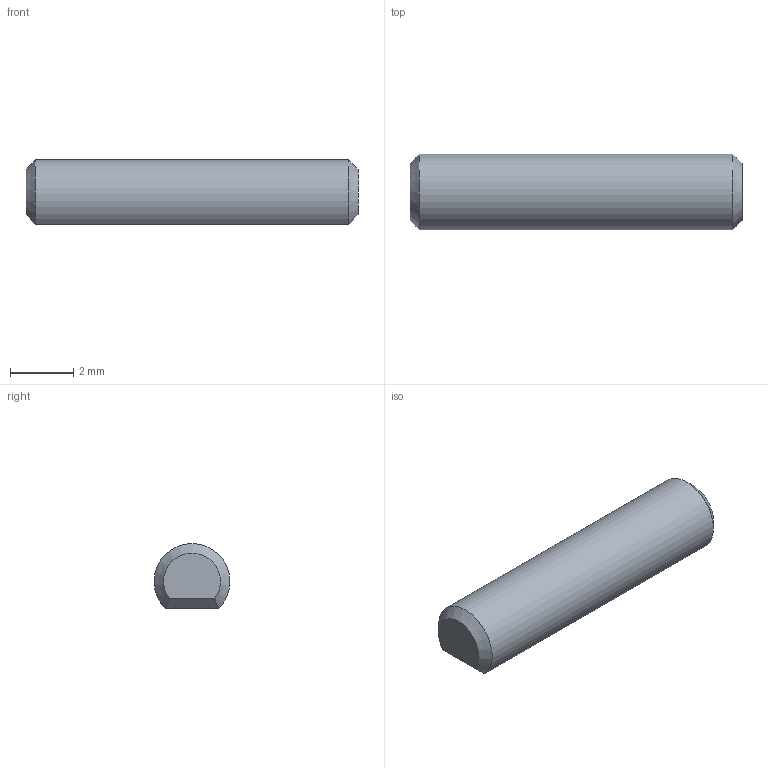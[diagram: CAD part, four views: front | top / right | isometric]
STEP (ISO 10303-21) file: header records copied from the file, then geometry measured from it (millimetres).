
FILE_DESCRIPTION(/* description */ ('STEP AP242','CAx-IF Rec.Pracs.---Representation and Presentation of Product Manufacturing Information (PMI)---4.0---2014-10-13','CAx-IF Rec.Pracs.---3D Tessellated Geometry---0.4---2014-09-14','2;1'),/* implementation_level */ '2;1');
FILE_NAME(/* name */ '61ff06a923e0087fa9c7d291',/* time_stamp */ '2022-02-05T23:22:17+00:00',/* author */ (''),/* organization */ (''),/* preprocessor_version */ 'ST-DEVELOPER v18.101',/* originating_system */ ' ',/* authorisation */ ' ');
FILE_SCHEMA (('AP242_MANAGED_MODEL_BASED_3D_ENGINEERING_MIM_LF { 1 0 10303 442 1 1 4 }'));
Length unit declared in the file: metre
Products named in the file (1): Pin
Bounding box: 10.5 x 2.39 x 2.04 mm (x, y, z)
Volume: 42.6 mm3; surface area: 82.6 mm2
Topology: 1 solids, 1 shells, 8 faces, 14 edges, 8 vertices
Faces by surface type: plane 5, cone 2, cylinder 1
Entity records: 216 total; most frequent: CARTESIAN_POINT 43, DIRECTION 32, ORIENTED_EDGE 28, EDGE_CURVE 14, AXIS2_PLACEMENT_3D 13, VERTEX_POINT 8, EDGE_LOOP 8, FACE_BOUND 8
